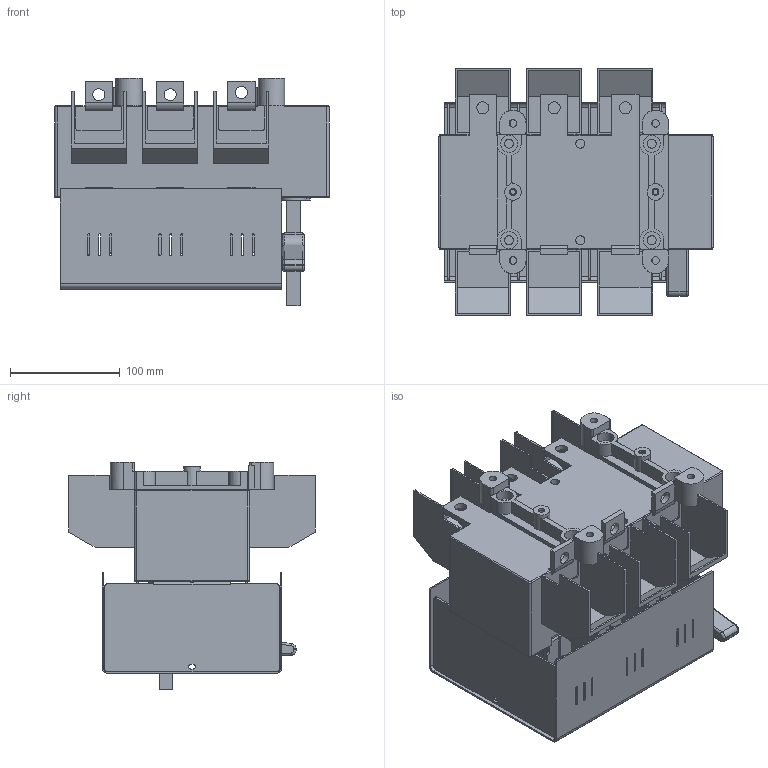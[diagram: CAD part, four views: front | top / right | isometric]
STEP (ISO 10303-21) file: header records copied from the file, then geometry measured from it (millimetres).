
FILE_DESCRIPTION(/* description */ (''),/* implementation_level */ '2;1');
FILE_NAME(/* name */ 'RAB 2 P3 A z oslona zaciskow.stp',/* time_stamp */ '2021-08-19T13:36:31+02:00',/* author */ (''),/* organization */ (''),/* preprocessor_version */ 'ST-DEVELOPER v18.1',/* originating_system */ 'SIEMENS PLM Software NX 1965',/* authorisation */ '');
FILE_SCHEMA (('MODEL_BASED_INTEGRATED_MANUFACTURING_SCHEMA'));
Length unit declared in the file: millimetre
Products named in the file (1): RAB 2 P3 A z oslona zaciskow
Bounding box: 250 x 225 x 207.3 mm (x, y, z)
Volume: 2599162 mm3; surface area: 570438.4 mm2
Topology: 2 solids, 8 shells, 1334 faces, 3666 edges, 2361 vertices
Faces by surface type: plane 897, cylinder 415, bspline 8, torus 8, sphere 6
Full cylindrical faces by diameter (mm): 4.8 x2, 5.2 x18, 6.2 x2, 7 x4, 8.2 x6, 11 x6, 14 x4, 15 x2, 15.5 x4
Entity records: 42219 total; most frequent: CARTESIAN_POINT 7582, ORIENTED_EDGE 7208, DIRECTION 7120, EDGE_CURVE 3604, LINE 2714, VECTOR 2714, VERTEX_POINT 2350, AXIS2_PLACEMENT_3D 2203
